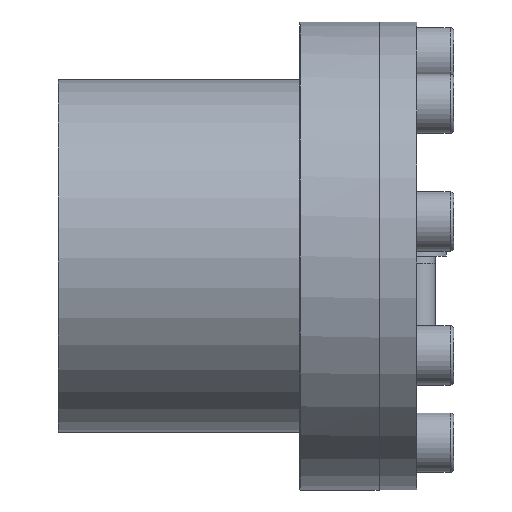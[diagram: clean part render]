
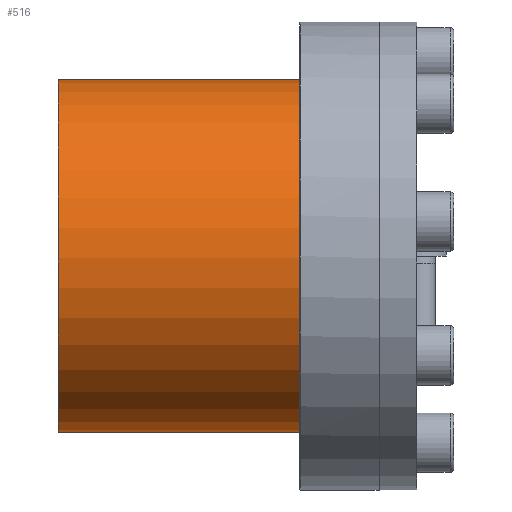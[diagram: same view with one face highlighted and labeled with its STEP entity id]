
A CAD part, left-side view. The second image highlights one B-rep face of the part: STEP entity #516.
In plain terms, the highlighted cylindrical face has radius 47.5 mm (diameter 95 mm), a partial arc.
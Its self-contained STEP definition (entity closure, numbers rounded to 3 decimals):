
#516 = ADVANCED_FACE( '', ( #946 ), #947, .T. );
#946 = FACE_OUTER_BOUND( '', #1592, .T. );
#947 = CYLINDRICAL_SURFACE( '', #1593, 47.5 );
#1592 = EDGE_LOOP( '', ( #2339, #2340, #2341, #2342 ) );
#1593 = AXIS2_PLACEMENT_3D( '', #2343, #2344, #2345 );
#2339 = ORIENTED_EDGE( '', *, *, #3767, .F. );
#2340 = ORIENTED_EDGE( '', *, *, #3757, .F. );
#2341 = ORIENTED_EDGE( '', *, *, #3784, .F. );
#2342 = ORIENTED_EDGE( '', *, *, #3797, .T. );
#2343 = CARTESIAN_POINT( '', ( 0., -60., 0. ) );
#2344 = DIRECTION( '', ( 0., 1., 0. ) );
#2345 = DIRECTION( '', ( 0., 0., -1. ) );
#3757 = EDGE_CURVE( '', #4177, #4173, #4179, .T. );
#3767 = EDGE_CURVE( '', #4173, #4195, #4196, .F. );
#3784 = EDGE_CURVE( '', #4226, #4177, #4228, .T. );
#3797 = EDGE_CURVE( '', #4226, #4195, #4246, .T. );
#4173 = VERTEX_POINT( '', #4754 );
#4177 = VERTEX_POINT( '', #4759 );
#4179 = CIRCLE( '', #4762, 47.5 );
#4195 = VERTEX_POINT( '', #4790 );
#4196 = LINE( '', #4791, #4792 );
#4226 = VERTEX_POINT( '', #4839 );
#4228 = LINE( '', #4842, #4843 );
#4246 = CIRCLE( '', #4867, 47.5 );
#4754 = CARTESIAN_POINT( '', ( 17.515, 31.5, 44.153 ) );
#4759 = CARTESIAN_POINT( '', ( 14.964, 31.5, 45.081 ) );
#4762 = AXIS2_PLACEMENT_3D( '', #5852, #5853, #5854 );
#4790 = CARTESIAN_POINT( '', ( 17.515, 96.5, 44.153 ) );
#4791 = CARTESIAN_POINT( '', ( 17.515, -60., 44.153 ) );
#4792 = VECTOR( '', #5867, 1000. );
#4839 = CARTESIAN_POINT( '', ( 14.964, 96.5, 45.081 ) );
#4842 = CARTESIAN_POINT( '', ( 14.964, -60., 45.081 ) );
#4843 = VECTOR( '', #5886, 1000. );
#4867 = AXIS2_PLACEMENT_3D( '', #5914, #5915, #5916 );
#5852 = CARTESIAN_POINT( '', ( 0., 31.5, 0. ) );
#5853 = DIRECTION( '', ( 0., -1., 0. ) );
#5854 = DIRECTION( '', ( 0., 0., -1. ) );
#5867 = DIRECTION( '', ( 0., -1., 0. ) );
#5886 = DIRECTION( '', ( 0., -1., 0. ) );
#5914 = CARTESIAN_POINT( '', ( 0., 96.5, 0. ) );
#5915 = DIRECTION( '', ( 0., -1., 0. ) );
#5916 = DIRECTION( '', ( 0., 0., -1. ) );
